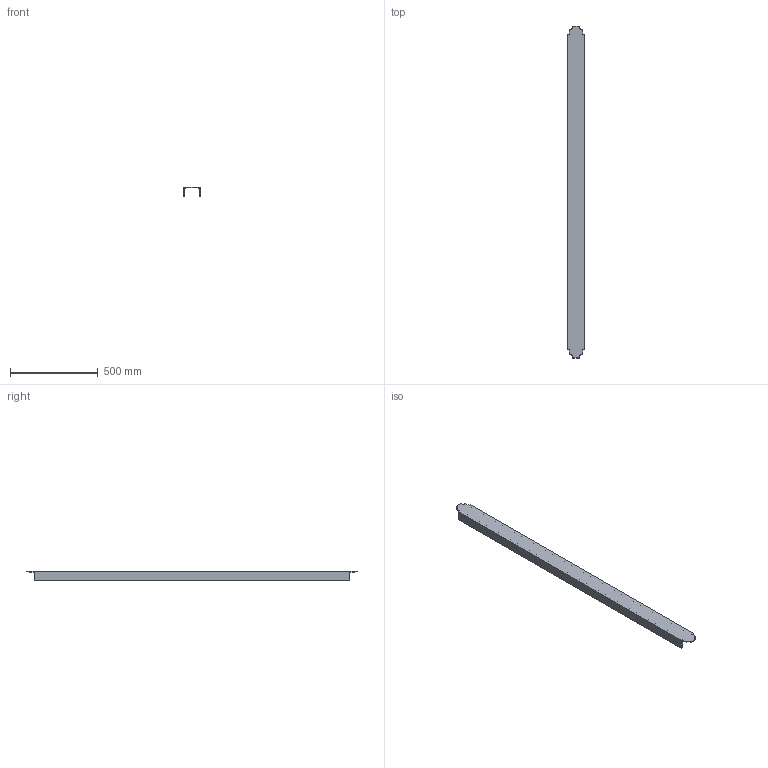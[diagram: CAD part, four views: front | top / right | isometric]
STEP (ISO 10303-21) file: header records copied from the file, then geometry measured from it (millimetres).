
FILE_DESCRIPTION (( 'STEP AP214' ), '1' );
FILE_NAME ('CCJ029-REP.034 - TRAVERSE B4-C4.STEP', '2025-02-13T08:48:11', ( '' ), ( '' ), 'SwSTEP 2.0', 'SolidWorks 2021', '' );
FILE_SCHEMA (( 'AUTOMOTIVE_DESIGN' ));
Length unit declared in the file: millimetre
Products named in the file (1): CCJ029-REP.034 - TRAVERSE B4-C4
Bounding box: 100 x 1890 x 55 mm (x, y, z)
Volume: 2272488.3 mm3; surface area: 738024.7 mm2
Topology: 1 solids, 1 shells, 68 faces, 183 edges, 122 vertices
Faces by surface type: plane 39, bspline 23, cylinder 6
Entity records: 3571 total; most frequent: CARTESIAN_POINT 1981, ORIENTED_EDGE 366, DIRECTION 237, EDGE_CURVE 183, VERTEX_POINT 122, LINE 121, VECTOR 121, EDGE_LOOP 73
